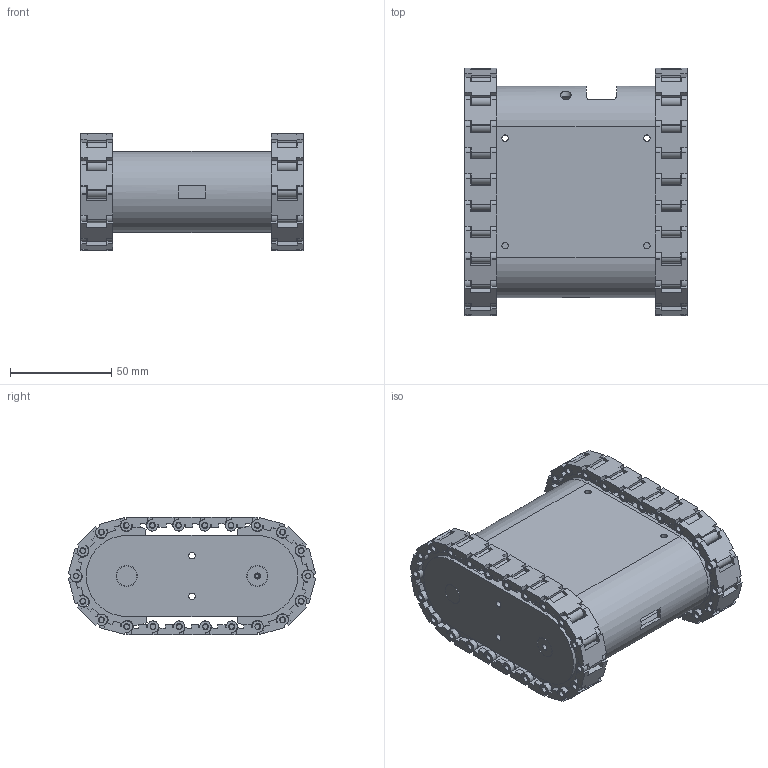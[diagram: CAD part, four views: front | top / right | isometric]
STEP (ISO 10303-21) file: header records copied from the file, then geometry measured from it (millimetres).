
FILE_DESCRIPTION(/* description */ (''),/* implementation_level */ '2;1');
FILE_NAME(/* name */ 'C:/Users/danie/Desktop/Tank/Componente60.step',/* time_stamp */ '2021-07-01T15:38:08+02:00',/* author */ (''),/* organization */ (''),/* preprocessor_version */ 'ST-DEVELOPER v18.1',/* originating_system */ 'Autodesk Translation Framework v10.9.0.1377',/* authorisation */ '');
FILE_SCHEMA (('AUTOMOTIVE_DESIGN { 1 0 10303 214 3 1 1 }'));
Products named in the file (35): ComponenteFusion; Whole Body; ESP32 Cam; Spur Gear (24 teeth); Spur Gear (12 teeth); Bottom; Upper Camera Mount; MG90s Servo v1 (1); servo (1); splined-drive (1); horn (1); Left Track; C0; C0Specchio) (1); C0(Specchio) (1)(Specchio); Side; Cover; Servo Gear; MG90s Servo v1; servo; splined-drive; horn; Gear (1); Side(Specchio) (1); Cover(Specchio) (1); Left Track(Specchio); C0(Specchio) (3); C0Specchio) (1)(Specchio) (1); C0(Specchio) (1)(Specchio)(Specchio) (1); MG90s Servo v1(Specchio) (1); servo(Specchio) (1); splined-drive(Specchio) (1); horn(Specchio) (1); Servo Gear(Specchio) (2); Gear (1)(Specchio)
Assembly tree (72 placements, depth 3):
  ComponenteFusion
    Whole Body
    ESP32 Cam
    Spur Gear (24 teeth)
    Spur Gear (12 teeth)
    Bottom
    Upper Camera Mount
    MG90s Servo v1 (1)
      servo (1)
      splined-drive (1)
      horn (1)
    Left Track
      C0  x11
      C0Specchio) (1)  x6
      C0(Specchio) (1)(Specchio)  x5
    Side
    Cover
    Servo Gear
    MG90s Servo v1
      servo
      splined-drive
      horn
    Gear (1)
    Side(Specchio) (1)
    Cover(Specchio) (1)
    Left Track(Specchio)
      C0(Specchio) (3)  x11
      C0Specchio) (1)(Specchio) (1)  x6
      C0(Specchio) (1)(Specchio)(Specchio) (1)  x5
    MG90s Servo v1(Specchio) (1)
      servo(Specchio) (1)
      splined-drive(Specchio) (1)
      horn(Specchio) (1)
    Servo Gear(Specchio) (2)
    Gear (1)(Specchio)
Bounding box: 109.6 x 122.13 x 58 mm (x, y, z)
Volume: 229953.6 mm3; surface area: 168158 mm2
Topology: 68 solids, 68 shells, 2734 faces, 6967 edges, 4551 vertices
Faces by surface type: plane 1724, cylinder 930, bspline 77, cone 3
Full cylindrical faces by diameter (mm): 0.2 x1, 1.8 x1, 1.85 x1, 1.95 x3, 2 x5, 2.15 x1, 2.5 x88, 2.62 x2, 2.9 x88, 3 x2, 3.2 x32, 4.6 x2, 4.92 x10, 5 x2, 5.5 x1, 7 x2, 8 x1, 10 x6, 10.4 x6
Entity records: 64888 total; most frequent: CARTESIAN_POINT 28289, DIRECTION 7382, ORIENTED_EDGE 7322, EDGE_CURVE 3661, LINE 2496, VECTOR 2496, AXIS2_PLACEMENT_3D 2443, VERTEX_POINT 2423
